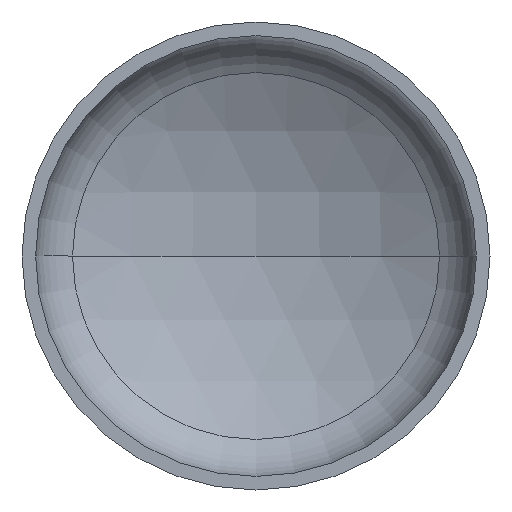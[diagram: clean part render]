
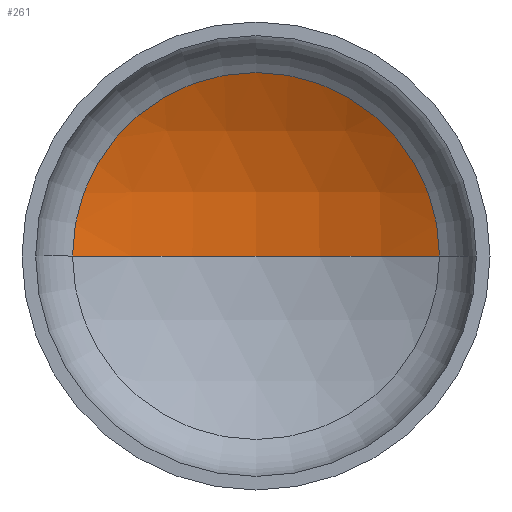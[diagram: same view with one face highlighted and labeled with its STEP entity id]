
A CAD part, front view. The second image highlights one B-rep face of the part: STEP entity #261.
In plain terms, the highlighted spherical face has radius 1760 mm.
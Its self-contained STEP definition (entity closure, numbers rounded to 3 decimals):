
#17 = EDGE_LOOP ( 'NONE', ( #98, #42, #33 ) ) ;
#19 = AXIS2_PLACEMENT_3D ( 'NONE', #250, #340, #99 ) ;
#21 = AXIS2_PLACEMENT_3D ( 'NONE', #223, #273, #382 ) ;
#23 = VERTEX_POINT ( 'NONE', #361 ) ;
#33 = ORIENTED_EDGE ( 'NONE', *, *, #365, .T. ) ;
#36 = AXIS2_PLACEMENT_3D ( 'NONE', #402, #166, #170 ) ;
#42 = ORIENTED_EDGE ( 'NONE', *, *, #369, .T. ) ;
#48 = VERTEX_POINT ( 'NONE', #296 ) ;
#57 = AXIS2_PLACEMENT_3D ( 'NONE', #219, #266, #263 ) ;
#98 = ORIENTED_EDGE ( 'NONE', *, *, #348, .F. ) ;
#99 = DIRECTION ( 'NONE',  ( -1., 0., 0. ) ) ;
#121 = SPHERICAL_SURFACE ( 'NONE', #57, 1760. ) ;
#166 = DIRECTION ( 'NONE',  ( 0., 0., 1. ) ) ;
#170 = DIRECTION ( 'NONE',  ( 1., 0., 0. ) ) ;
#195 = FACE_OUTER_BOUND ( 'NONE', #17, .T. ) ;
#210 = CARTESIAN_POINT ( 'NONE',  ( -862.648, 416.359, 0. ) ) ;
#219 = CARTESIAN_POINT ( 'NONE',  ( 0., -1117.733, 0. ) ) ;
#223 = CARTESIAN_POINT ( 'NONE',  ( 0., 416.359, 0. ) ) ;
#239 = CIRCLE ( 'NONE', #21, 862.648 ) ;
#243 = VERTEX_POINT ( 'NONE', #210 ) ;
#250 = CARTESIAN_POINT ( 'NONE',  ( 0., -1117.733, 0. ) ) ;
#261 = ADVANCED_FACE ( 'NONE', ( #195 ), #121, .F. ) ;
#263 = DIRECTION ( 'NONE',  ( -1., 0., 0. ) ) ;
#266 = DIRECTION ( 'NONE',  ( 0., 0., -1. ) ) ;
#273 = DIRECTION ( 'NONE',  ( 0., -1., 0. ) ) ;
#296 = CARTESIAN_POINT ( 'NONE',  ( 0., 642.267, 0. ) ) ;
#303 = CIRCLE ( 'NONE', #19, 1760. ) ;
#313 = CIRCLE ( 'NONE', #36, 1760. ) ;
#340 = DIRECTION ( 'NONE',  ( 0., 0., -1. ) ) ;
#348 = EDGE_CURVE ( 'NONE', #48, #243, #313, .T. ) ;
#361 = CARTESIAN_POINT ( 'NONE',  ( 862.648, 416.359, 0. ) ) ;
#365 = EDGE_CURVE ( 'NONE', #23, #243, #239, .T. ) ;
#369 = EDGE_CURVE ( 'NONE', #48, #23, #303, .T. ) ;
#382 = DIRECTION ( 'NONE',  ( 1., 0., 0. ) ) ;
#402 = CARTESIAN_POINT ( 'NONE',  ( 0., -1117.733, 0. ) ) ;
